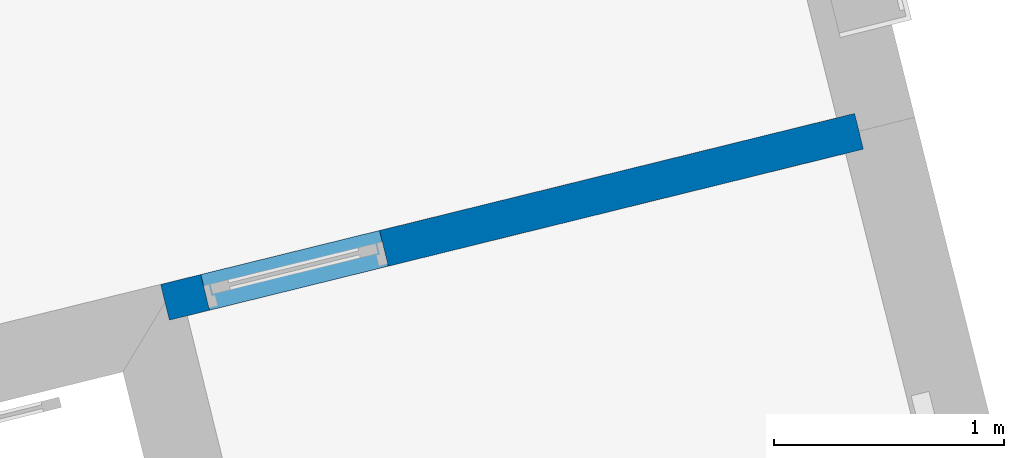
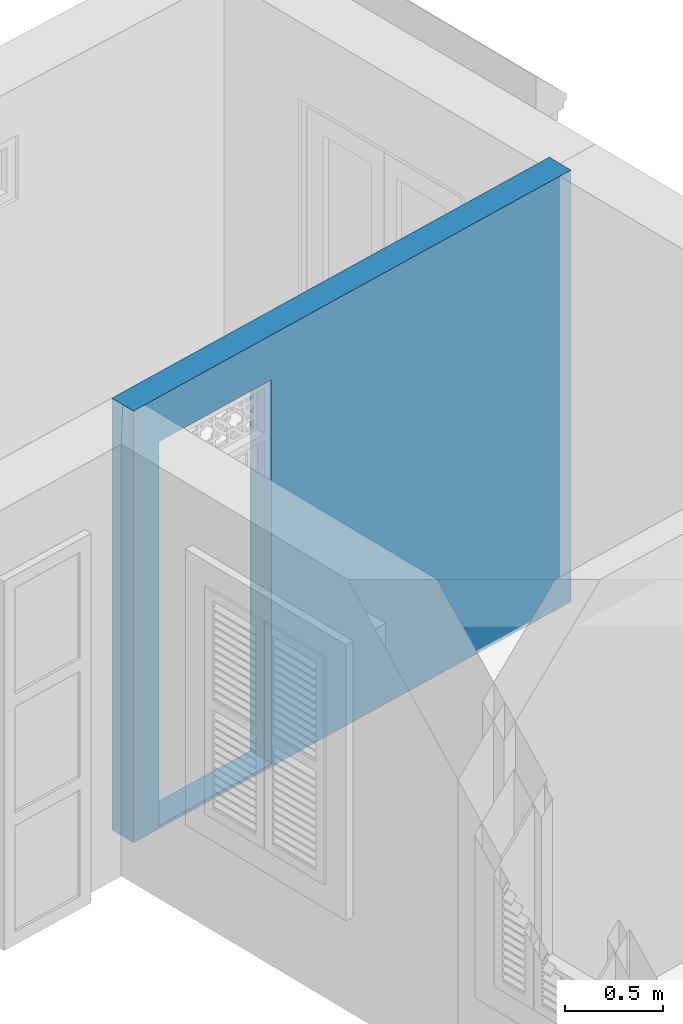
# One storey, part 9 of 12: 1 wall, 1 opening.
"""IFC4 building model written with IfcOpenShell, lengths in metres."""

from ifc_helpers import new_model, si_unit, frame, origin_with_axes, place, context, subcontext, project, spatial, polyline, outline, extrude, material, layer, layer_set, layer_usage, type_object, element, save


model = new_model("IFC4")

# Units and contexts
model_context = context("Model", 3, world=origin_with_axes())
body_context = subcontext(model_context, "Body", "Model", "MODEL_VIEW")
ifc_project = project(units=[si_unit("PLANEANGLEUNIT", "RADIAN"), si_unit("MASSUNIT", "GRAM", prefix="KILO"), si_unit("FORCEUNIT", "NEWTON", prefix="KILO"), si_unit("LENGTHUNIT", "METRE"), si_unit("AREAUNIT", "SQUARE_METRE"), si_unit("VOLUMEUNIT", "CUBIC_METRE")], contexts=[model_context, model_context])

# Site, building, storey
site_placement = place(None, origin_with_axes())
site = spatial("IfcSite", under=ifc_project, at=site_placement, Name="Site plot-1", CompositionType="ELEMENT")
building_placement = place(None, origin_with_axes())
building = spatial("IfcBuilding", under=site, at=building_placement, Name="Building plot-1", CompositionType="ELEMENT")
storey_placement = place(None, origin_with_axes())
storey = spatial("IfcBuildingStorey", under=building, at=storey_placement, Name="plot-1 0", CompositionType="ELEMENT", Elevation=0.0)

# Wall, opening
ifc_material = material(Name="Masonry")
ifc_layer = layer(ifc_material, 0.16, ventilated=False)
ifc_layer_set = layer_set([ifc_layer], Name="interior_0.08_0.08")
ifc_layer_usage = layer_usage(ifc_layer_set, "AXIS2", "POSITIVE", -0.08)
wall_type = type_object("IfcWallType", Name="interior_0.08_0.08", PredefinedType="SOLIDWALL", material=ifc_layer_set)
wall_placement = place(storey_placement, frame((1.84232512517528, 23.8951878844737, 0.0), z_axis=(0.0, 0.0, 1.0), x_axis=(0.970961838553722, 0.239234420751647, 0.0)))
wall = element("IfcWall", 1, at=wall_placement, inside=storey, type_object=wall_type, material=ifc_layer_usage, Name="interior", context=body_context, shape_type="SweptSolid", body=[
    extrude(outline(polyline([(3.77933523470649e-16, 0.0800000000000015), (-3.6813634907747e-16, -0.0800000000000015), (3.10690918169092, -0.0800000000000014), (3.10690918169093, 0.0800000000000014), (3.77933523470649e-16, 0.0800000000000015)])), origin_with_axes(), (0.0, 0.0, 1.0), 2.7),
])
opening_placement = place(wall_placement, frame((0.18, 0.0, 0.02)))
element("IfcOpeningElement", 2, at=opening_placement, cuts=wall, Name="My Opening", ObjectType="Opening", context=body_context, shape_type="SweptSolid", body=[
    extrude(outline(polyline([(0.0, -0.0999999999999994), (0.8, -0.099999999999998), (0.799999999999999, 1.1), (-5.82867087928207e-16, 1.1), (0.0, -0.0999999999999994)])), origin_with_axes(), (0.0, 0.0, 1.0), 2.4),
])

save(model, "model.ifc")
